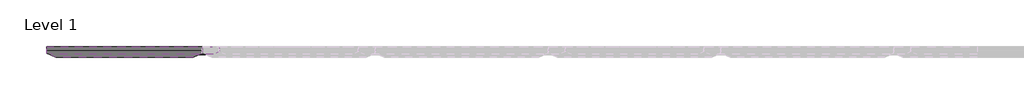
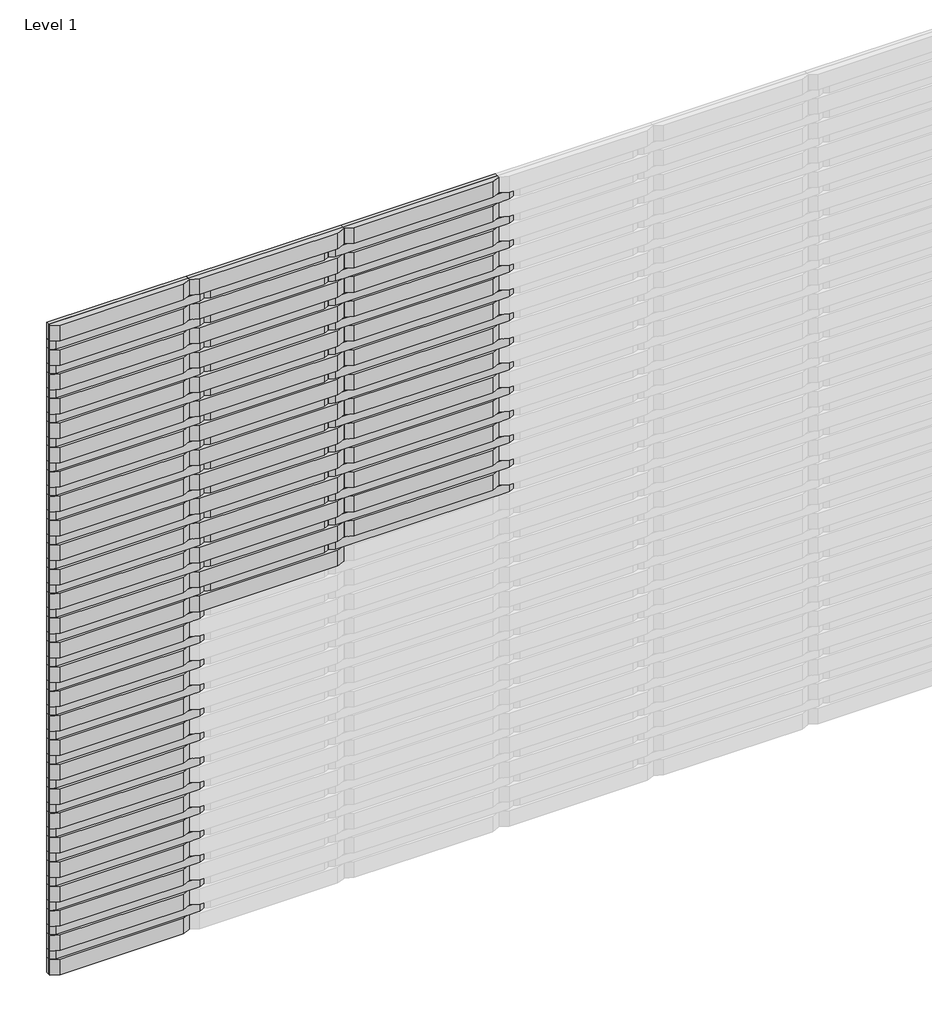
# One storey, part 1 of 3: 106 proxies.
"""IFC4 building model written with IfcOpenShell, lengths in millimetres."""

from ifc_helpers import new_model, si_unit, origin, place, context, project, spatial, transform, mapped, element, save
from components import specialty_equipment_40f1bc00, specialty_equipment_a95d78fa, specialty_equipment_5a5a9d1b, specialty_equipment_b25e9ab8, specialty_equipment_8bea2172

model = new_model("IFC4")

# Units and contexts
model_context = context("Model", 3, world=origin())
ifc_project = project(units=[si_unit("LENGTHUNIT", "METRE", prefix="MILLI")], contexts=[model_context])

# Site, building, storey
site = spatial("IfcSite", under=ifc_project)
building = spatial("IfcBuilding", under=site)
storey = spatial("IfcBuildingStorey", under=building, Name="Level 1", Elevation=0.0)

# Proxies
placement = place(None, origin())
specialty_equipment_shape = specialty_equipment_40f1bc00(model_context)
element("IfcBuildingElementProxy", 1, Name="Spinneybeck_ARO Plank 8 : A - 2’-9” x 3 1/2” x 1 1/4”", ObjectType="Spinneybeck_ARO Plank 8 : A - 2’-9” x 3 1/2” x 1 1/4”", at=placement, inside=storey, context=model_context, shape_type="MappedRepresentation", body=[
    mapped(specialty_equipment_shape, transform((1138.179612, 2593.3070483, 3755.55), x_axis=(1.0, 0.0, 0.0), y_axis=(0.0, 0.0, 1.0), z_axis=(0.0, -1.0, 0.0))),
])
element("IfcBuildingElementProxy", 2, Name="Spinneybeck_ARO Plank 8 : A - 2’-9” x 3 1/2” x 1 1/4”", ObjectType="Spinneybeck_ARO Plank 8 : A - 2’-9” x 3 1/2” x 1 1/4”", at=placement, inside=storey, context=model_context, shape_type="MappedRepresentation", body=[
    mapped(specialty_equipment_shape, transform((1976.379612, 2593.3070483, 3755.55), x_axis=(1.0, 0.0, 0.0), y_axis=(0.0, 0.0, 1.0), z_axis=(0.0, -1.0, 0.0))),
])
element("IfcBuildingElementProxy", 3, Name="Spinneybeck_ARO Plank 8 : A - 2’-9” x 3 1/2” x 1 1/4”", ObjectType="Spinneybeck_ARO Plank 8 : A - 2’-9” x 3 1/2” x 1 1/4”", at=placement, inside=storey, context=model_context, shape_type="MappedRepresentation", body=[
    mapped(specialty_equipment_shape, transform((1138.179612, 2593.3070483, 3615.85), x_axis=(1.0, 0.0, 0.0), y_axis=(0.0, 0.0, 1.0), z_axis=(0.0, -1.0, 0.0))),
])
element("IfcBuildingElementProxy", 4, Name="Spinneybeck_ARO Plank 8 : A - 2’-9” x 3 1/2” x 1 1/4”", ObjectType="Spinneybeck_ARO Plank 8 : A - 2’-9” x 3 1/2” x 1 1/4”", at=placement, inside=storey, context=model_context, shape_type="MappedRepresentation", body=[
    mapped(specialty_equipment_shape, transform((1976.379612, 2593.3070483, 3615.85), x_axis=(1.0, 0.0, 0.0), y_axis=(0.0, 0.0, 1.0), z_axis=(0.0, -1.0, 0.0))),
])
element("IfcBuildingElementProxy", 5, Name="Spinneybeck_ARO Plank 8 : A - 2’-9” x 3 1/2” x 1 1/4”", ObjectType="Spinneybeck_ARO Plank 8 : A - 2’-9” x 3 1/2” x 1 1/4”", at=placement, inside=storey, context=model_context, shape_type="MappedRepresentation", body=[
    mapped(specialty_equipment_shape, transform((1138.179612, 2593.3070483, 3476.15), x_axis=(1.0, 0.0, 0.0), y_axis=(0.0, 0.0, 1.0), z_axis=(0.0, -1.0, 0.0))),
])
element("IfcBuildingElementProxy", 6, Name="Spinneybeck_ARO Plank 8 : A - 2’-9” x 3 1/2” x 1 1/4”", ObjectType="Spinneybeck_ARO Plank 8 : A - 2’-9” x 3 1/2” x 1 1/4”", at=placement, inside=storey, context=model_context, shape_type="MappedRepresentation", body=[
    mapped(specialty_equipment_shape, transform((1976.379612, 2593.3070483, 3476.15), x_axis=(1.0, 0.0, 0.0), y_axis=(0.0, 0.0, 1.0), z_axis=(0.0, -1.0, 0.0))),
])
element("IfcBuildingElementProxy", 7, Name="Spinneybeck_ARO Plank 8 : A - 2’-9” x 3 1/2” x 1 1/4”", ObjectType="Spinneybeck_ARO Plank 8 : A - 2’-9” x 3 1/2” x 1 1/4”", at=placement, inside=storey, context=model_context, shape_type="MappedRepresentation", body=[
    mapped(specialty_equipment_shape, transform((1138.179612, 2593.3070483, 3336.45), x_axis=(1.0, 0.0, 0.0), y_axis=(0.0, 0.0, 1.0), z_axis=(0.0, -1.0, 0.0))),
])
element("IfcBuildingElementProxy", 8, Name="Spinneybeck_ARO Plank 8 : A - 2’-9” x 3 1/2” x 1 1/4”", ObjectType="Spinneybeck_ARO Plank 8 : A - 2’-9” x 3 1/2” x 1 1/4”", at=placement, inside=storey, context=model_context, shape_type="MappedRepresentation", body=[
    mapped(specialty_equipment_shape, transform((1976.379612, 2593.3070483, 3336.45), x_axis=(1.0, 0.0, 0.0), y_axis=(0.0, 0.0, 1.0), z_axis=(0.0, -1.0, 0.0))),
])
element("IfcBuildingElementProxy", 9, Name="Spinneybeck_ARO Plank 8 : A - 2’-9” x 3 1/2” x 1 1/4”", ObjectType="Spinneybeck_ARO Plank 8 : A - 2’-9” x 3 1/2” x 1 1/4”", at=placement, inside=storey, context=model_context, shape_type="MappedRepresentation", body=[
    mapped(specialty_equipment_shape, transform((1138.179612, 2593.3070483, 3196.75), x_axis=(1.0, 0.0, 0.0), y_axis=(0.0, 0.0, 1.0), z_axis=(0.0, -1.0, 0.0))),
])
element("IfcBuildingElementProxy", 10, Name="Spinneybeck_ARO Plank 8 : A - 2’-9” x 3 1/2” x 1 1/4”", ObjectType="Spinneybeck_ARO Plank 8 : A - 2’-9” x 3 1/2” x 1 1/4”", at=placement, inside=storey, context=model_context, shape_type="MappedRepresentation", body=[
    mapped(specialty_equipment_shape, transform((1976.379612, 2593.3070483, 3196.75), x_axis=(1.0, 0.0, 0.0), y_axis=(0.0, 0.0, 1.0), z_axis=(0.0, -1.0, 0.0))),
])
element("IfcBuildingElementProxy", 11, Name="Spinneybeck_ARO Plank 8 : A - 2’-9” x 3 1/2” x 1 1/4”", ObjectType="Spinneybeck_ARO Plank 8 : A - 2’-9” x 3 1/2” x 1 1/4”", at=placement, inside=storey, context=model_context, shape_type="MappedRepresentation", body=[
    mapped(specialty_equipment_shape, transform((1138.179612, 2593.3070483, 3057.05), x_axis=(1.0, 0.0, 0.0), y_axis=(0.0, 0.0, 1.0), z_axis=(0.0, -1.0, 0.0))),
])
element("IfcBuildingElementProxy", 12, Name="Spinneybeck_ARO Plank 8 : A - 2’-9” x 3 1/2” x 1 1/4”", ObjectType="Spinneybeck_ARO Plank 8 : A - 2’-9” x 3 1/2” x 1 1/4”", at=placement, inside=storey, context=model_context, shape_type="MappedRepresentation", body=[
    mapped(specialty_equipment_shape, transform((1976.379612, 2593.3070483, 3057.05), x_axis=(1.0, 0.0, 0.0), y_axis=(0.0, 0.0, 1.0), z_axis=(0.0, -1.0, 0.0))),
])
element("IfcBuildingElementProxy", 13, Name="Spinneybeck_ARO Plank 8 : A - 2’-9” x 3 1/2” x 1 1/4”", ObjectType="Spinneybeck_ARO Plank 8 : A - 2’-9” x 3 1/2” x 1 1/4”", at=placement, inside=storey, context=model_context, shape_type="MappedRepresentation", body=[
    mapped(specialty_equipment_shape, transform((1138.179612, 2593.3070483, 2917.35), x_axis=(1.0, 0.0, 0.0), y_axis=(0.0, 0.0, 1.0), z_axis=(0.0, -1.0, 0.0))),
])
element("IfcBuildingElementProxy", 14, Name="Spinneybeck_ARO Plank 8 : A - 2’-9” x 3 1/2” x 1 1/4”", ObjectType="Spinneybeck_ARO Plank 8 : A - 2’-9” x 3 1/2” x 1 1/4”", at=placement, inside=storey, context=model_context, shape_type="MappedRepresentation", body=[
    mapped(specialty_equipment_shape, transform((1976.379612, 2593.3070483, 2917.35), x_axis=(1.0, 0.0, 0.0), y_axis=(0.0, 0.0, 1.0), z_axis=(0.0, -1.0, 0.0))),
])
element("IfcBuildingElementProxy", 15, Name="Spinneybeck_ARO Plank 8 : A - 2’-9” x 3 1/2” x 1 1/4”", ObjectType="Spinneybeck_ARO Plank 8 : A - 2’-9” x 3 1/2” x 1 1/4”", at=placement, inside=storey, context=model_context, shape_type="MappedRepresentation", body=[
    mapped(specialty_equipment_shape, transform((1138.179612, 2593.3070483, 2777.65), x_axis=(1.0, 0.0, 0.0), y_axis=(0.0, 0.0, 1.0), z_axis=(0.0, -1.0, 0.0))),
])
element("IfcBuildingElementProxy", 16, Name="Spinneybeck_ARO Plank 8 : A - 2’-9” x 3 1/2” x 1 1/4”", ObjectType="Spinneybeck_ARO Plank 8 : A - 2’-9” x 3 1/2” x 1 1/4”", at=placement, inside=storey, context=model_context, shape_type="MappedRepresentation", body=[
    mapped(specialty_equipment_shape, transform((1976.379612, 2593.3070483, 2777.65), x_axis=(1.0, 0.0, 0.0), y_axis=(0.0, 0.0, 1.0), z_axis=(0.0, -1.0, 0.0))),
])
element("IfcBuildingElementProxy", 17, Name="Spinneybeck_ARO Plank 8 : A - 2’-9” x 3 1/2” x 1 1/4”", ObjectType="Spinneybeck_ARO Plank 8 : A - 2’-9” x 3 1/2” x 1 1/4”", at=placement, inside=storey, context=model_context, shape_type="MappedRepresentation", body=[
    mapped(specialty_equipment_shape, transform((1138.179612, 2593.3070483, 2637.95), x_axis=(1.0, 0.0, 0.0), y_axis=(0.0, 0.0, 1.0), z_axis=(0.0, -1.0, 0.0))),
])
element("IfcBuildingElementProxy", 18, Name="Spinneybeck_ARO Plank 8 : A - 2’-9” x 3 1/2” x 1 1/4”", ObjectType="Spinneybeck_ARO Plank 8 : A - 2’-9” x 3 1/2” x 1 1/4”", at=placement, inside=storey, context=model_context, shape_type="MappedRepresentation", body=[
    mapped(specialty_equipment_shape, transform((1976.379612, 2593.3070483, 2637.95), x_axis=(1.0, 0.0, 0.0), y_axis=(0.0, 0.0, 1.0), z_axis=(0.0, -1.0, 0.0))),
])
element("IfcBuildingElementProxy", 19, Name="Spinneybeck_ARO Plank 8 : A - 2’-9” x 3 1/2” x 1 1/4”", ObjectType="Spinneybeck_ARO Plank 8 : A - 2’-9” x 3 1/2” x 1 1/4”", at=placement, inside=storey, context=model_context, shape_type="MappedRepresentation", body=[
    mapped(specialty_equipment_shape, transform((1138.179612, 2593.3070483, 2498.25), x_axis=(1.0, 0.0, 0.0), y_axis=(0.0, 0.0, 1.0), z_axis=(0.0, -1.0, 0.0))),
])
element("IfcBuildingElementProxy", 20, Name="Spinneybeck_ARO Plank 8 : A - 2’-9” x 3 1/2” x 1 1/4”", ObjectType="Spinneybeck_ARO Plank 8 : A - 2’-9” x 3 1/2” x 1 1/4”", at=placement, inside=storey, context=model_context, shape_type="MappedRepresentation", body=[
    mapped(specialty_equipment_shape, transform((1976.379612, 2593.3070483, 2498.25), x_axis=(1.0, 0.0, 0.0), y_axis=(0.0, 0.0, 1.0), z_axis=(0.0, -1.0, 0.0))),
])
element("IfcBuildingElementProxy", 21, Name="Spinneybeck_ARO Plank 8 : A - 2’-9” x 3 1/2” x 1 1/4”", ObjectType="Spinneybeck_ARO Plank 8 : A - 2’-9” x 3 1/2” x 1 1/4”", at=placement, inside=storey, context=model_context, shape_type="MappedRepresentation", body=[
    mapped(specialty_equipment_shape, transform((1138.179612, 2593.3070483, 2358.55), x_axis=(1.0, 0.0, 0.0), y_axis=(0.0, 0.0, 1.0), z_axis=(0.0, -1.0, 0.0))),
])
element("IfcBuildingElementProxy", 22, Name="Spinneybeck_ARO Plank 8 : A - 2’-9” x 3 1/2” x 1 1/4”", ObjectType="Spinneybeck_ARO Plank 8 : A - 2’-9” x 3 1/2” x 1 1/4”", at=placement, inside=storey, context=model_context, shape_type="MappedRepresentation", body=[
    mapped(specialty_equipment_shape, transform((1976.379612, 2593.3070483, 2358.55), x_axis=(1.0, 0.0, 0.0), y_axis=(0.0, 0.0, 1.0), z_axis=(0.0, -1.0, 0.0))),
])
element("IfcBuildingElementProxy", 23, Name="Spinneybeck_ARO Plank 8 : A - 2’-9” x 3 1/2” x 1 1/4”", ObjectType="Spinneybeck_ARO Plank 8 : A - 2’-9” x 3 1/2” x 1 1/4”", at=placement, inside=storey, context=model_context, shape_type="MappedRepresentation", body=[
    mapped(specialty_equipment_shape, transform((1138.179612, 2593.3070483, 2218.85), x_axis=(1.0, 0.0, 0.0), y_axis=(0.0, 0.0, 1.0), z_axis=(0.0, -1.0, 0.0))),
])
element("IfcBuildingElementProxy", 24, Name="Spinneybeck_ARO Plank 8 : A - 2’-9” x 3 1/2” x 1 1/4”", ObjectType="Spinneybeck_ARO Plank 8 : A - 2’-9” x 3 1/2” x 1 1/4”", at=placement, inside=storey, context=model_context, shape_type="MappedRepresentation", body=[
    mapped(specialty_equipment_shape, transform((1976.379612, 2593.3070483, 2218.85), x_axis=(1.0, 0.0, 0.0), y_axis=(0.0, 0.0, 1.0), z_axis=(0.0, -1.0, 0.0))),
])
element("IfcBuildingElementProxy", 25, Name="Spinneybeck_ARO Plank 8 : A - 2’-9” x 3 1/2” x 1 1/4”", ObjectType="Spinneybeck_ARO Plank 8 : A - 2’-9” x 3 1/2” x 1 1/4”", at=placement, inside=storey, context=model_context, shape_type="MappedRepresentation", body=[
    mapped(specialty_equipment_shape, transform((1138.179612, 2593.3070483, 2079.15), x_axis=(1.0, 0.0, 0.0), y_axis=(0.0, 0.0, 1.0), z_axis=(0.0, -1.0, 0.0))),
])
element("IfcBuildingElementProxy", 26, Name="Spinneybeck_ARO Plank 8 : A - 2’-9” x 3 1/2” x 1 1/4”", ObjectType="Spinneybeck_ARO Plank 8 : A - 2’-9” x 3 1/2” x 1 1/4”", at=placement, inside=storey, context=model_context, shape_type="MappedRepresentation", body=[
    mapped(specialty_equipment_shape, transform((1976.379612, 2593.3070483, 2079.15), x_axis=(1.0, 0.0, 0.0), y_axis=(0.0, 0.0, 1.0), z_axis=(0.0, -1.0, 0.0))),
])
element("IfcBuildingElementProxy", 27, Name="Spinneybeck_ARO Plank 8 : A - 2’-9” x 3 1/2” x 1 1/4”", ObjectType="Spinneybeck_ARO Plank 8 : A - 2’-9” x 3 1/2” x 1 1/4”", at=placement, inside=storey, context=model_context, shape_type="MappedRepresentation", body=[
    mapped(specialty_equipment_shape, transform((1138.179612, 2593.3070483, 1939.45), x_axis=(1.0, 0.0, 0.0), y_axis=(0.0, 0.0, 1.0), z_axis=(0.0, -1.0, 0.0))),
])
specialty_equipment_2_shape = specialty_equipment_a95d78fa(model_context)
element("IfcBuildingElementProxy", 28, Name="Spinneybeck_ARO Plank 8 : C - 3’-3 1/2” x 2” x 3/4”", ObjectType="Spinneybeck_ARO Plank 8 : C - 3’-3 1/2” x 2” x 3/4”", at=placement, inside=storey, context=model_context, shape_type="MappedRepresentation", body=[
    mapped(specialty_equipment_2_shape, transform((1976.379612, 2593.3070483, 3685.7), x_axis=(1.0, 0.0, 0.0), y_axis=(0.0, 0.0, 1.0), z_axis=(0.0, -1.0, 0.0))),
])
element("IfcBuildingElementProxy", 29, Name="Spinneybeck_ARO Plank 8 : C - 3’-3 1/2” x 2” x 3/4”", ObjectType="Spinneybeck_ARO Plank 8 : C - 3’-3 1/2” x 2” x 3/4”", at=placement, inside=storey, context=model_context, shape_type="MappedRepresentation", body=[
    mapped(specialty_equipment_2_shape, transform((1976.379612, 2593.3070483, 3546.0), x_axis=(1.0, 0.0, 0.0), y_axis=(0.0, 0.0, 1.0), z_axis=(0.0, -1.0, 0.0))),
])
element("IfcBuildingElementProxy", 30, Name="Spinneybeck_ARO Plank 8 : C - 3’-3 1/2” x 2” x 3/4”", ObjectType="Spinneybeck_ARO Plank 8 : C - 3’-3 1/2” x 2” x 3/4”", at=placement, inside=storey, context=model_context, shape_type="MappedRepresentation", body=[
    mapped(specialty_equipment_2_shape, transform((1976.379612, 2593.3070483, 3406.3), x_axis=(1.0, 0.0, 0.0), y_axis=(0.0, 0.0, 1.0), z_axis=(0.0, -1.0, 0.0))),
])
element("IfcBuildingElementProxy", 31, Name="Spinneybeck_ARO Plank 8 : C - 3’-3 1/2” x 2” x 3/4”", ObjectType="Spinneybeck_ARO Plank 8 : C - 3’-3 1/2” x 2” x 3/4”", at=placement, inside=storey, context=model_context, shape_type="MappedRepresentation", body=[
    mapped(specialty_equipment_2_shape, transform((1976.379612, 2593.3070483, 3266.6), x_axis=(1.0, 0.0, 0.0), y_axis=(0.0, 0.0, 1.0), z_axis=(0.0, -1.0, 0.0))),
])
element("IfcBuildingElementProxy", 32, Name="Spinneybeck_ARO Plank 8 : C - 3’-3 1/2” x 2” x 3/4”", ObjectType="Spinneybeck_ARO Plank 8 : C - 3’-3 1/2” x 2” x 3/4”", at=placement, inside=storey, context=model_context, shape_type="MappedRepresentation", body=[
    mapped(specialty_equipment_2_shape, transform((1976.379612, 2593.3070483, 3126.9), x_axis=(1.0, 0.0, 0.0), y_axis=(0.0, 0.0, 1.0), z_axis=(0.0, -1.0, 0.0))),
])
element("IfcBuildingElementProxy", 33, Name="Spinneybeck_ARO Plank 8 : C - 3’-3 1/2” x 2” x 3/4”", ObjectType="Spinneybeck_ARO Plank 8 : C - 3’-3 1/2” x 2” x 3/4”", at=placement, inside=storey, context=model_context, shape_type="MappedRepresentation", body=[
    mapped(specialty_equipment_2_shape, transform((1976.379612, 2593.3070483, 2987.2), x_axis=(1.0, 0.0, 0.0), y_axis=(0.0, 0.0, 1.0), z_axis=(0.0, -1.0, 0.0))),
])
element("IfcBuildingElementProxy", 34, Name="Spinneybeck_ARO Plank 8 : C - 3’-3 1/2” x 2” x 3/4”", ObjectType="Spinneybeck_ARO Plank 8 : C - 3’-3 1/2” x 2” x 3/4”", at=placement, inside=storey, context=model_context, shape_type="MappedRepresentation", body=[
    mapped(specialty_equipment_2_shape, transform((1976.379612, 2593.3070483, 2847.5), x_axis=(1.0, 0.0, 0.0), y_axis=(0.0, 0.0, 1.0), z_axis=(0.0, -1.0, 0.0))),
])
element("IfcBuildingElementProxy", 35, Name="Spinneybeck_ARO Plank 8 : C - 3’-3 1/2” x 2” x 3/4”", ObjectType="Spinneybeck_ARO Plank 8 : C - 3’-3 1/2” x 2” x 3/4”", at=placement, inside=storey, context=model_context, shape_type="MappedRepresentation", body=[
    mapped(specialty_equipment_2_shape, transform((1976.379612, 2593.3070483, 2707.8), x_axis=(1.0, 0.0, 0.0), y_axis=(0.0, 0.0, 1.0), z_axis=(0.0, -1.0, 0.0))),
])
element("IfcBuildingElementProxy", 36, Name="Spinneybeck_ARO Plank 8 : C - 3’-3 1/2” x 2” x 3/4”", ObjectType="Spinneybeck_ARO Plank 8 : C - 3’-3 1/2” x 2” x 3/4”", at=placement, inside=storey, context=model_context, shape_type="MappedRepresentation", body=[
    mapped(specialty_equipment_2_shape, transform((1976.379612, 2593.3070483, 2568.1), x_axis=(1.0, 0.0, 0.0), y_axis=(0.0, 0.0, 1.0), z_axis=(0.0, -1.0, 0.0))),
])
element("IfcBuildingElementProxy", 37, Name="Spinneybeck_ARO Plank 8 : C - 3’-3 1/2” x 2” x 3/4”", ObjectType="Spinneybeck_ARO Plank 8 : C - 3’-3 1/2” x 2” x 3/4”", at=placement, inside=storey, context=model_context, shape_type="MappedRepresentation", body=[
    mapped(specialty_equipment_2_shape, transform((1976.379612, 2593.3070483, 2428.4), x_axis=(1.0, 0.0, 0.0), y_axis=(0.0, 0.0, 1.0), z_axis=(0.0, -1.0, 0.0))),
])
element("IfcBuildingElementProxy", 38, Name="Spinneybeck_ARO Plank 8 : C - 3’-3 1/2” x 2” x 3/4”", ObjectType="Spinneybeck_ARO Plank 8 : C - 3’-3 1/2” x 2” x 3/4”", at=placement, inside=storey, context=model_context, shape_type="MappedRepresentation", body=[
    mapped(specialty_equipment_2_shape, transform((1976.379612, 2593.3070483, 2288.7), x_axis=(1.0, 0.0, 0.0), y_axis=(0.0, 0.0, 1.0), z_axis=(0.0, -1.0, 0.0))),
])
element("IfcBuildingElementProxy", 39, Name="Spinneybeck_ARO Plank 8 : C - 3’-3 1/2” x 2” x 3/4”", ObjectType="Spinneybeck_ARO Plank 8 : C - 3’-3 1/2” x 2” x 3/4”", at=placement, inside=storey, context=model_context, shape_type="MappedRepresentation", body=[
    mapped(specialty_equipment_2_shape, transform((1976.379612, 2593.3070483, 2149.0), x_axis=(1.0, 0.0, 0.0), y_axis=(0.0, 0.0, 1.0), z_axis=(0.0, -1.0, 0.0))),
])
element("IfcBuildingElementProxy", 40, Name="Spinneybeck_ARO Plank 8 : C - 3’-3 1/2” x 2” x 3/4”", ObjectType="Spinneybeck_ARO Plank 8 : C - 3’-3 1/2” x 2” x 3/4”", at=placement, inside=storey, context=model_context, shape_type="MappedRepresentation", body=[
    mapped(specialty_equipment_2_shape, transform((1976.379612, 2593.3070483, 2009.3), x_axis=(1.0, 0.0, 0.0), y_axis=(0.0, 0.0, 1.0), z_axis=(0.0, -1.0, 0.0))),
])
specialty_equipment_3_shape = specialty_equipment_5a5a9d1b(model_context)
element("IfcBuildingElementProxy", 41, Name="Spinneybeck_ARO Plank 8 : D - 2’-2 1/2” x 2” x 3/4”", ObjectType="Spinneybeck_ARO Plank 8 : D - 2’-2 1/2” x 2” x 3/4”", at=placement, inside=storey, context=model_context, shape_type="MappedRepresentation", body=[
    mapped(specialty_equipment_3_shape, transform((1138.179612, 2593.3070483, 3685.7), x_axis=(1.0, 0.0, 0.0), y_axis=(0.0, 0.0, 1.0), z_axis=(0.0, -1.0, 0.0))),
])
element("IfcBuildingElementProxy", 42, Name="Spinneybeck_ARO Plank 8 : D - 2’-2 1/2” x 2” x 3/4”", ObjectType="Spinneybeck_ARO Plank 8 : D - 2’-2 1/2” x 2” x 3/4”", at=placement, inside=storey, context=model_context, shape_type="MappedRepresentation", body=[
    mapped(specialty_equipment_3_shape, transform((1138.179612, 2593.3070483, 3546.0), x_axis=(1.0, 0.0, 0.0), y_axis=(0.0, 0.0, 1.0), z_axis=(0.0, -1.0, 0.0))),
])
element("IfcBuildingElementProxy", 43, Name="Spinneybeck_ARO Plank 8 : D - 2’-2 1/2” x 2” x 3/4”", ObjectType="Spinneybeck_ARO Plank 8 : D - 2’-2 1/2” x 2” x 3/4”", at=placement, inside=storey, context=model_context, shape_type="MappedRepresentation", body=[
    mapped(specialty_equipment_3_shape, transform((1138.179612, 2593.3070483, 3406.3), x_axis=(1.0, 0.0, 0.0), y_axis=(0.0, 0.0, 1.0), z_axis=(0.0, -1.0, 0.0))),
])
element("IfcBuildingElementProxy", 44, Name="Spinneybeck_ARO Plank 8 : D - 2’-2 1/2” x 2” x 3/4”", ObjectType="Spinneybeck_ARO Plank 8 : D - 2’-2 1/2” x 2” x 3/4”", at=placement, inside=storey, context=model_context, shape_type="MappedRepresentation", body=[
    mapped(specialty_equipment_3_shape, transform((1138.179612, 2593.3070483, 3266.6), x_axis=(1.0, 0.0, 0.0), y_axis=(0.0, 0.0, 1.0), z_axis=(0.0, -1.0, 0.0))),
])
element("IfcBuildingElementProxy", 45, Name="Spinneybeck_ARO Plank 8 : D - 2’-2 1/2” x 2” x 3/4”", ObjectType="Spinneybeck_ARO Plank 8 : D - 2’-2 1/2” x 2” x 3/4”", at=placement, inside=storey, context=model_context, shape_type="MappedRepresentation", body=[
    mapped(specialty_equipment_3_shape, transform((1138.179612, 2593.3070483, 3126.9), x_axis=(1.0, 0.0, 0.0), y_axis=(0.0, 0.0, 1.0), z_axis=(0.0, -1.0, 0.0))),
])
element("IfcBuildingElementProxy", 46, Name="Spinneybeck_ARO Plank 8 : D - 2’-2 1/2” x 2” x 3/4”", ObjectType="Spinneybeck_ARO Plank 8 : D - 2’-2 1/2” x 2” x 3/4”", at=placement, inside=storey, context=model_context, shape_type="MappedRepresentation", body=[
    mapped(specialty_equipment_3_shape, transform((1138.179612, 2593.3070483, 2987.2), x_axis=(1.0, 0.0, 0.0), y_axis=(0.0, 0.0, 1.0), z_axis=(0.0, -1.0, 0.0))),
])
element("IfcBuildingElementProxy", 47, Name="Spinneybeck_ARO Plank 8 : D - 2’-2 1/2” x 2” x 3/4”", ObjectType="Spinneybeck_ARO Plank 8 : D - 2’-2 1/2” x 2” x 3/4”", at=placement, inside=storey, context=model_context, shape_type="MappedRepresentation", body=[
    mapped(specialty_equipment_3_shape, transform((1138.179612, 2593.3070483, 2847.5), x_axis=(1.0, 0.0, 0.0), y_axis=(0.0, 0.0, 1.0), z_axis=(0.0, -1.0, 0.0))),
])
element("IfcBuildingElementProxy", 48, Name="Spinneybeck_ARO Plank 8 : D - 2’-2 1/2” x 2” x 3/4”", ObjectType="Spinneybeck_ARO Plank 8 : D - 2’-2 1/2” x 2” x 3/4”", at=placement, inside=storey, context=model_context, shape_type="MappedRepresentation", body=[
    mapped(specialty_equipment_3_shape, transform((1138.179612, 2593.3070483, 2707.8), x_axis=(1.0, 0.0, 0.0), y_axis=(0.0, 0.0, 1.0), z_axis=(0.0, -1.0, 0.0))),
])
element("IfcBuildingElementProxy", 49, Name="Spinneybeck_ARO Plank 8 : D - 2’-2 1/2” x 2” x 3/4”", ObjectType="Spinneybeck_ARO Plank 8 : D - 2’-2 1/2” x 2” x 3/4”", at=placement, inside=storey, context=model_context, shape_type="MappedRepresentation", body=[
    mapped(specialty_equipment_3_shape, transform((1138.179612, 2593.3070483, 2568.1), x_axis=(1.0, 0.0, 0.0), y_axis=(0.0, 0.0, 1.0), z_axis=(0.0, -1.0, 0.0))),
])
element("IfcBuildingElementProxy", 50, Name="Spinneybeck_ARO Plank 8 : D - 2’-2 1/2” x 2” x 3/4”", ObjectType="Spinneybeck_ARO Plank 8 : D - 2’-2 1/2” x 2” x 3/4”", at=placement, inside=storey, context=model_context, shape_type="MappedRepresentation", body=[
    mapped(specialty_equipment_3_shape, transform((1138.179612, 2593.3070483, 2428.4), x_axis=(1.0, 0.0, 0.0), y_axis=(0.0, 0.0, 1.0), z_axis=(0.0, -1.0, 0.0))),
])
element("IfcBuildingElementProxy", 51, Name="Spinneybeck_ARO Plank 8 : D - 2’-2 1/2” x 2” x 3/4”", ObjectType="Spinneybeck_ARO Plank 8 : D - 2’-2 1/2” x 2” x 3/4”", at=placement, inside=storey, context=model_context, shape_type="MappedRepresentation", body=[
    mapped(specialty_equipment_3_shape, transform((1138.179612, 2593.3070483, 2288.7), x_axis=(1.0, 0.0, 0.0), y_axis=(0.0, 0.0, 1.0), z_axis=(0.0, -1.0, 0.0))),
])
element("IfcBuildingElementProxy", 52, Name="Spinneybeck_ARO Plank 8 : D - 2’-2 1/2” x 2” x 3/4”", ObjectType="Spinneybeck_ARO Plank 8 : D - 2’-2 1/2” x 2” x 3/4”", at=placement, inside=storey, context=model_context, shape_type="MappedRepresentation", body=[
    mapped(specialty_equipment_3_shape, transform((1138.179612, 2593.3070483, 2149.0), x_axis=(1.0, 0.0, 0.0), y_axis=(0.0, 0.0, 1.0), z_axis=(0.0, -1.0, 0.0))),
])
element("IfcBuildingElementProxy", 53, Name="Spinneybeck_ARO Plank 8 : D - 2’-2 1/2” x 2” x 3/4”", ObjectType="Spinneybeck_ARO Plank 8 : D - 2’-2 1/2” x 2” x 3/4”", at=placement, inside=storey, context=model_context, shape_type="MappedRepresentation", body=[
    mapped(specialty_equipment_3_shape, transform((1138.179612, 2593.3070483, 2009.3), x_axis=(1.0, 0.0, 0.0), y_axis=(0.0, 0.0, 1.0), z_axis=(0.0, -1.0, 0.0))),
])
specialty_equipment_4_shape = specialty_equipment_b25e9ab8(model_context)
element("IfcBuildingElementProxy", 54, Name="Spinneybeck_ARO Plank 8 : A - 2’-9” x 3 1/2” x 1 1/4”", ObjectType="Spinneybeck_ARO Plank 8 : A - 2’-9” x 3 1/2” x 1 1/4”", at=placement, inside=storey, context=model_context, shape_type="MappedRepresentation", body=[
    mapped(specialty_equipment_4_shape, transform((341.254612, 2593.3070483, 3755.55), x_axis=(1.0, 0.0, 0.0), y_axis=(0.0, 0.0, 1.0), z_axis=(0.0, -1.0, 0.0))),
])
element("IfcBuildingElementProxy", 55, Name="Spinneybeck_ARO Plank 8 : A - 2’-9” x 3 1/2” x 1 1/4”", ObjectType="Spinneybeck_ARO Plank 8 : A - 2’-9” x 3 1/2” x 1 1/4”", at=placement, inside=storey, context=model_context, shape_type="MappedRepresentation", body=[
    mapped(specialty_equipment_4_shape, transform((341.254612, 2593.3070483, 3615.85), x_axis=(1.0, 0.0, 0.0), y_axis=(0.0, 0.0, 1.0), z_axis=(0.0, -1.0, 0.0))),
])
element("IfcBuildingElementProxy", 56, Name="Spinneybeck_ARO Plank 8 : A - 2’-9” x 3 1/2” x 1 1/4”", ObjectType="Spinneybeck_ARO Plank 8 : A - 2’-9” x 3 1/2” x 1 1/4”", at=placement, inside=storey, context=model_context, shape_type="MappedRepresentation", body=[
    mapped(specialty_equipment_4_shape, transform((341.254612, 2593.3070483, 3476.15), x_axis=(1.0, 0.0, 0.0), y_axis=(0.0, 0.0, 1.0), z_axis=(0.0, -1.0, 0.0))),
])
element("IfcBuildingElementProxy", 57, Name="Spinneybeck_ARO Plank 8 : A - 2’-9” x 3 1/2” x 1 1/4”", ObjectType="Spinneybeck_ARO Plank 8 : A - 2’-9” x 3 1/2” x 1 1/4”", at=placement, inside=storey, context=model_context, shape_type="MappedRepresentation", body=[
    mapped(specialty_equipment_4_shape, transform((341.254612, 2593.3070483, 3336.45), x_axis=(1.0, 0.0, 0.0), y_axis=(0.0, 0.0, 1.0), z_axis=(0.0, -1.0, 0.0))),
])
element("IfcBuildingElementProxy", 58, Name="Spinneybeck_ARO Plank 8 : A - 2’-9” x 3 1/2” x 1 1/4”", ObjectType="Spinneybeck_ARO Plank 8 : A - 2’-9” x 3 1/2” x 1 1/4”", at=placement, inside=storey, context=model_context, shape_type="MappedRepresentation", body=[
    mapped(specialty_equipment_4_shape, transform((341.254612, 2593.3070483, 3196.75), x_axis=(1.0, 0.0, 0.0), y_axis=(0.0, 0.0, 1.0), z_axis=(0.0, -1.0, 0.0))),
])
element("IfcBuildingElementProxy", 59, Name="Spinneybeck_ARO Plank 8 : A - 2’-9” x 3 1/2” x 1 1/4”", ObjectType="Spinneybeck_ARO Plank 8 : A - 2’-9” x 3 1/2” x 1 1/4”", at=placement, inside=storey, context=model_context, shape_type="MappedRepresentation", body=[
    mapped(specialty_equipment_4_shape, transform((341.254612, 2593.3070483, 3057.05), x_axis=(1.0, 0.0, 0.0), y_axis=(0.0, 0.0, 1.0), z_axis=(0.0, -1.0, 0.0))),
])
element("IfcBuildingElementProxy", 60, Name="Spinneybeck_ARO Plank 8 : A - 2’-9” x 3 1/2” x 1 1/4”", ObjectType="Spinneybeck_ARO Plank 8 : A - 2’-9” x 3 1/2” x 1 1/4”", at=placement, inside=storey, context=model_context, shape_type="MappedRepresentation", body=[
    mapped(specialty_equipment_4_shape, transform((341.254612, 2593.3070483, 2917.35), x_axis=(1.0, 0.0, 0.0), y_axis=(0.0, 0.0, 1.0), z_axis=(0.0, -1.0, 0.0))),
])
element("IfcBuildingElementProxy", 61, Name="Spinneybeck_ARO Plank 8 : A - 2’-9” x 3 1/2” x 1 1/4”", ObjectType="Spinneybeck_ARO Plank 8 : A - 2’-9” x 3 1/2” x 1 1/4”", at=placement, inside=storey, context=model_context, shape_type="MappedRepresentation", body=[
    mapped(specialty_equipment_4_shape, transform((341.254612, 2593.3070483, 2777.65), x_axis=(1.0, 0.0, 0.0), y_axis=(0.0, 0.0, 1.0), z_axis=(0.0, -1.0, 0.0))),
])
element("IfcBuildingElementProxy", 62, Name="Spinneybeck_ARO Plank 8 : A - 2’-9” x 3 1/2” x 1 1/4”", ObjectType="Spinneybeck_ARO Plank 8 : A - 2’-9” x 3 1/2” x 1 1/4”", at=placement, inside=storey, context=model_context, shape_type="MappedRepresentation", body=[
    mapped(specialty_equipment_4_shape, transform((341.254612, 2593.3070483, 2637.95), x_axis=(1.0, 0.0, 0.0), y_axis=(0.0, 0.0, 1.0), z_axis=(0.0, -1.0, 0.0))),
])
element("IfcBuildingElementProxy", 63, Name="Spinneybeck_ARO Plank 8 : A - 2’-9” x 3 1/2” x 1 1/4”", ObjectType="Spinneybeck_ARO Plank 8 : A - 2’-9” x 3 1/2” x 1 1/4”", at=placement, inside=storey, context=model_context, shape_type="MappedRepresentation", body=[
    mapped(specialty_equipment_4_shape, transform((341.254612, 2593.3070483, 2498.25), x_axis=(1.0, 0.0, 0.0), y_axis=(0.0, 0.0, 1.0), z_axis=(0.0, -1.0, 0.0))),
])
element("IfcBuildingElementProxy", 64, Name="Spinneybeck_ARO Plank 8 : A - 2’-9” x 3 1/2” x 1 1/4”", ObjectType="Spinneybeck_ARO Plank 8 : A - 2’-9” x 3 1/2” x 1 1/4”", at=placement, inside=storey, context=model_context, shape_type="MappedRepresentation", body=[
    mapped(specialty_equipment_4_shape, transform((341.254612, 2593.3070483, 2358.55), x_axis=(1.0, 0.0, 0.0), y_axis=(0.0, 0.0, 1.0), z_axis=(0.0, -1.0, 0.0))),
])
element("IfcBuildingElementProxy", 65, Name="Spinneybeck_ARO Plank 8 : A - 2’-9” x 3 1/2” x 1 1/4”", ObjectType="Spinneybeck_ARO Plank 8 : A - 2’-9” x 3 1/2” x 1 1/4”", at=placement, inside=storey, context=model_context, shape_type="MappedRepresentation", body=[
    mapped(specialty_equipment_4_shape, transform((341.254612, 2593.3070483, 2218.85), x_axis=(1.0, 0.0, 0.0), y_axis=(0.0, 0.0, 1.0), z_axis=(0.0, -1.0, 0.0))),
])
element("IfcBuildingElementProxy", 66, Name="Spinneybeck_ARO Plank 8 : A - 2’-9” x 3 1/2” x 1 1/4”", ObjectType="Spinneybeck_ARO Plank 8 : A - 2’-9” x 3 1/2” x 1 1/4”", at=placement, inside=storey, context=model_context, shape_type="MappedRepresentation", body=[
    mapped(specialty_equipment_4_shape, transform((341.254612, 2593.3070483, 2079.15), x_axis=(1.0, 0.0, 0.0), y_axis=(0.0, 0.0, 1.0), z_axis=(0.0, -1.0, 0.0))),
])
element("IfcBuildingElementProxy", 67, Name="Spinneybeck_ARO Plank 8 : A - 2’-9” x 3 1/2” x 1 1/4”", ObjectType="Spinneybeck_ARO Plank 8 : A - 2’-9” x 3 1/2” x 1 1/4”", at=placement, inside=storey, context=model_context, shape_type="MappedRepresentation", body=[
    mapped(specialty_equipment_4_shape, transform((341.254612, 2593.3070483, 1939.45), x_axis=(1.0, 0.0, 0.0), y_axis=(0.0, 0.0, 1.0), z_axis=(0.0, -1.0, 0.0))),
])
element("IfcBuildingElementProxy", 68, Name="Spinneybeck_ARO Plank 8 : A - 2’-9” x 3 1/2” x 1 1/4”", ObjectType="Spinneybeck_ARO Plank 8 : A - 2’-9” x 3 1/2” x 1 1/4”", at=placement, inside=storey, context=model_context, shape_type="MappedRepresentation", body=[
    mapped(specialty_equipment_4_shape, transform((341.254612, 2593.3070483, 1799.75), x_axis=(1.0, 0.0, 0.0), y_axis=(0.0, 0.0, 1.0), z_axis=(0.0, -1.0, 0.0))),
])
element("IfcBuildingElementProxy", 69, Name="Spinneybeck_ARO Plank 8 : A - 2’-9” x 3 1/2” x 1 1/4”", ObjectType="Spinneybeck_ARO Plank 8 : A - 2’-9” x 3 1/2” x 1 1/4”", at=placement, inside=storey, context=model_context, shape_type="MappedRepresentation", body=[
    mapped(specialty_equipment_4_shape, transform((341.254612, 2593.3070483, 1660.05), x_axis=(1.0, 0.0, 0.0), y_axis=(0.0, 0.0, 1.0), z_axis=(0.0, -1.0, 0.0))),
])
element("IfcBuildingElementProxy", 70, Name="Spinneybeck_ARO Plank 8 : A - 2’-9” x 3 1/2” x 1 1/4”", ObjectType="Spinneybeck_ARO Plank 8 : A - 2’-9” x 3 1/2” x 1 1/4”", at=placement, inside=storey, context=model_context, shape_type="MappedRepresentation", body=[
    mapped(specialty_equipment_4_shape, transform((341.254612, 2593.3070483, 1520.35), x_axis=(1.0, 0.0, 0.0), y_axis=(0.0, 0.0, 1.0), z_axis=(0.0, -1.0, 0.0))),
])
element("IfcBuildingElementProxy", 71, Name="Spinneybeck_ARO Plank 8 : A - 2’-9” x 3 1/2” x 1 1/4”", ObjectType="Spinneybeck_ARO Plank 8 : A - 2’-9” x 3 1/2” x 1 1/4”", at=placement, inside=storey, context=model_context, shape_type="MappedRepresentation", body=[
    mapped(specialty_equipment_4_shape, transform((341.254612, 2593.3070483, 1380.65), x_axis=(1.0, 0.0, 0.0), y_axis=(0.0, 0.0, 1.0), z_axis=(0.0, -1.0, 0.0))),
])
element("IfcBuildingElementProxy", 72, Name="Spinneybeck_ARO Plank 8 : A - 2’-9” x 3 1/2” x 1 1/4”", ObjectType="Spinneybeck_ARO Plank 8 : A - 2’-9” x 3 1/2” x 1 1/4”", at=placement, inside=storey, context=model_context, shape_type="MappedRepresentation", body=[
    mapped(specialty_equipment_4_shape, transform((341.254612, 2593.3070483, 1240.95), x_axis=(1.0, 0.0, 0.0), y_axis=(0.0, 0.0, 1.0), z_axis=(0.0, -1.0, 0.0))),
])
element("IfcBuildingElementProxy", 73, Name="Spinneybeck_ARO Plank 8 : A - 2’-9” x 3 1/2” x 1 1/4”", ObjectType="Spinneybeck_ARO Plank 8 : A - 2’-9” x 3 1/2” x 1 1/4”", at=placement, inside=storey, context=model_context, shape_type="MappedRepresentation", body=[
    mapped(specialty_equipment_4_shape, transform((341.254612, 2593.3070483, 1101.25), x_axis=(1.0, 0.0, 0.0), y_axis=(0.0, 0.0, 1.0), z_axis=(0.0, -1.0, 0.0))),
])
element("IfcBuildingElementProxy", 74, Name="Spinneybeck_ARO Plank 8 : A - 2’-9” x 3 1/2” x 1 1/4”", ObjectType="Spinneybeck_ARO Plank 8 : A - 2’-9” x 3 1/2” x 1 1/4”", at=placement, inside=storey, context=model_context, shape_type="MappedRepresentation", body=[
    mapped(specialty_equipment_4_shape, transform((341.254612, 2593.3070483, 961.55), x_axis=(1.0, 0.0, 0.0), y_axis=(0.0, 0.0, 1.0), z_axis=(0.0, -1.0, 0.0))),
])
element("IfcBuildingElementProxy", 75, Name="Spinneybeck_ARO Plank 8 : A - 2’-9” x 3 1/2” x 1 1/4”", ObjectType="Spinneybeck_ARO Plank 8 : A - 2’-9” x 3 1/2” x 1 1/4”", at=placement, inside=storey, context=model_context, shape_type="MappedRepresentation", body=[
    mapped(specialty_equipment_4_shape, transform((341.254612, 2593.3070483, 821.85), x_axis=(1.0, 0.0, 0.0), y_axis=(0.0, 0.0, 1.0), z_axis=(0.0, -1.0, 0.0))),
])
element("IfcBuildingElementProxy", 76, Name="Spinneybeck_ARO Plank 8 : A - 2’-9” x 3 1/2” x 1 1/4”", ObjectType="Spinneybeck_ARO Plank 8 : A - 2’-9” x 3 1/2” x 1 1/4”", at=placement, inside=storey, context=model_context, shape_type="MappedRepresentation", body=[
    mapped(specialty_equipment_4_shape, transform((341.254612, 2593.3070483, 682.15), x_axis=(1.0, 0.0, 0.0), y_axis=(0.0, 0.0, 1.0), z_axis=(0.0, -1.0, 0.0))),
])
element("IfcBuildingElementProxy", 77, Name="Spinneybeck_ARO Plank 8 : A - 2’-9” x 3 1/2” x 1 1/4”", ObjectType="Spinneybeck_ARO Plank 8 : A - 2’-9” x 3 1/2” x 1 1/4”", at=placement, inside=storey, context=model_context, shape_type="MappedRepresentation", body=[
    mapped(specialty_equipment_4_shape, transform((341.254612, 2593.3070483, 542.45), x_axis=(1.0, 0.0, 0.0), y_axis=(0.0, 0.0, 1.0), z_axis=(0.0, -1.0, 0.0))),
])
element("IfcBuildingElementProxy", 78, Name="Spinneybeck_ARO Plank 8 : A - 2’-9” x 3 1/2” x 1 1/4”", ObjectType="Spinneybeck_ARO Plank 8 : A - 2’-9” x 3 1/2” x 1 1/4”", at=placement, inside=storey, context=model_context, shape_type="MappedRepresentation", body=[
    mapped(specialty_equipment_4_shape, transform((341.254612, 2593.3070483, 402.75), x_axis=(1.0, 0.0, 0.0), y_axis=(0.0, 0.0, 1.0), z_axis=(0.0, -1.0, 0.0))),
])
element("IfcBuildingElementProxy", 79, Name="Spinneybeck_ARO Plank 8 : A - 2’-9” x 3 1/2” x 1 1/4”", ObjectType="Spinneybeck_ARO Plank 8 : A - 2’-9” x 3 1/2” x 1 1/4”", at=placement, inside=storey, context=model_context, shape_type="MappedRepresentation", body=[
    mapped(specialty_equipment_4_shape, transform((341.254612, 2593.3070483, 263.05), x_axis=(1.0, 0.0, 0.0), y_axis=(0.0, 0.0, 1.0), z_axis=(0.0, -1.0, 0.0))),
])
element("IfcBuildingElementProxy", 80, Name="Spinneybeck_ARO Plank 8 : A - 2’-9” x 3 1/2” x 1 1/4”", ObjectType="Spinneybeck_ARO Plank 8 : A - 2’-9” x 3 1/2” x 1 1/4”", at=placement, inside=storey, context=model_context, shape_type="MappedRepresentation", body=[
    mapped(specialty_equipment_4_shape, transform((341.254612, 2593.3070483, 123.35), x_axis=(1.0, 0.0, 0.0), y_axis=(0.0, 0.0, 1.0), z_axis=(0.0, -1.0, 0.0))),
])
specialty_equipment_5_shape = specialty_equipment_8bea2172(model_context)
element("IfcBuildingElementProxy", 81, Name="Spinneybeck_ARO Plank 8 : C - 3’-3 1/2” x 2” x 3/4”", ObjectType="Spinneybeck_ARO Plank 8 : C - 3’-3 1/2” x 2” x 3/4”", at=placement, inside=storey, context=model_context, shape_type="MappedRepresentation", body=[
    mapped(specialty_equipment_5_shape, transform((382.529612, 2593.3070483, 3685.7), x_axis=(1.0, 0.0, 0.0), y_axis=(0.0, 0.0, 1.0), z_axis=(0.0, -1.0, 0.0))),
])
element("IfcBuildingElementProxy", 82, Name="Spinneybeck_ARO Plank 8 : C - 3’-3 1/2” x 2” x 3/4”", ObjectType="Spinneybeck_ARO Plank 8 : C - 3’-3 1/2” x 2” x 3/4”", at=placement, inside=storey, context=model_context, shape_type="MappedRepresentation", body=[
    mapped(specialty_equipment_5_shape, transform((382.529612, 2593.3070483, 3546.0), x_axis=(1.0, 0.0, 0.0), y_axis=(0.0, 0.0, 1.0), z_axis=(0.0, -1.0, 0.0))),
])
element("IfcBuildingElementProxy", 83, Name="Spinneybeck_ARO Plank 8 : C - 3’-3 1/2” x 2” x 3/4”", ObjectType="Spinneybeck_ARO Plank 8 : C - 3’-3 1/2” x 2” x 3/4”", at=placement, inside=storey, context=model_context, shape_type="MappedRepresentation", body=[
    mapped(specialty_equipment_5_shape, transform((382.529612, 2593.3070483, 3406.3), x_axis=(1.0, 0.0, 0.0), y_axis=(0.0, 0.0, 1.0), z_axis=(0.0, -1.0, 0.0))),
])
element("IfcBuildingElementProxy", 84, Name="Spinneybeck_ARO Plank 8 : C - 3’-3 1/2” x 2” x 3/4”", ObjectType="Spinneybeck_ARO Plank 8 : C - 3’-3 1/2” x 2” x 3/4”", at=placement, inside=storey, context=model_context, shape_type="MappedRepresentation", body=[
    mapped(specialty_equipment_5_shape, transform((382.529612, 2593.3070483, 3266.6), x_axis=(1.0, 0.0, 0.0), y_axis=(0.0, 0.0, 1.0), z_axis=(0.0, -1.0, 0.0))),
])
element("IfcBuildingElementProxy", 85, Name="Spinneybeck_ARO Plank 8 : C - 3’-3 1/2” x 2” x 3/4”", ObjectType="Spinneybeck_ARO Plank 8 : C - 3’-3 1/2” x 2” x 3/4”", at=placement, inside=storey, context=model_context, shape_type="MappedRepresentation", body=[
    mapped(specialty_equipment_5_shape, transform((382.529612, 2593.3070483, 3126.9), x_axis=(1.0, 0.0, 0.0), y_axis=(0.0, 0.0, 1.0), z_axis=(0.0, -1.0, 0.0))),
])
element("IfcBuildingElementProxy", 86, Name="Spinneybeck_ARO Plank 8 : C - 3’-3 1/2” x 2” x 3/4”", ObjectType="Spinneybeck_ARO Plank 8 : C - 3’-3 1/2” x 2” x 3/4”", at=placement, inside=storey, context=model_context, shape_type="MappedRepresentation", body=[
    mapped(specialty_equipment_5_shape, transform((382.529612, 2593.3070483, 2987.2), x_axis=(1.0, 0.0, 0.0), y_axis=(0.0, 0.0, 1.0), z_axis=(0.0, -1.0, 0.0))),
])
element("IfcBuildingElementProxy", 87, Name="Spinneybeck_ARO Plank 8 : C - 3’-3 1/2” x 2” x 3/4”", ObjectType="Spinneybeck_ARO Plank 8 : C - 3’-3 1/2” x 2” x 3/4”", at=placement, inside=storey, context=model_context, shape_type="MappedRepresentation", body=[
    mapped(specialty_equipment_5_shape, transform((382.529612, 2593.3070483, 2847.5), x_axis=(1.0, 0.0, 0.0), y_axis=(0.0, 0.0, 1.0), z_axis=(0.0, -1.0, 0.0))),
])
element("IfcBuildingElementProxy", 88, Name="Spinneybeck_ARO Plank 8 : C - 3’-3 1/2” x 2” x 3/4”", ObjectType="Spinneybeck_ARO Plank 8 : C - 3’-3 1/2” x 2” x 3/4”", at=placement, inside=storey, context=model_context, shape_type="MappedRepresentation", body=[
    mapped(specialty_equipment_5_shape, transform((382.529612, 2593.3070483, 2707.8), x_axis=(1.0, 0.0, 0.0), y_axis=(0.0, 0.0, 1.0), z_axis=(0.0, -1.0, 0.0))),
])
element("IfcBuildingElementProxy", 89, Name="Spinneybeck_ARO Plank 8 : C - 3’-3 1/2” x 2” x 3/4”", ObjectType="Spinneybeck_ARO Plank 8 : C - 3’-3 1/2” x 2” x 3/4”", at=placement, inside=storey, context=model_context, shape_type="MappedRepresentation", body=[
    mapped(specialty_equipment_5_shape, transform((382.529612, 2593.3070483, 2568.1), x_axis=(1.0, 0.0, 0.0), y_axis=(0.0, 0.0, 1.0), z_axis=(0.0, -1.0, 0.0))),
])
element("IfcBuildingElementProxy", 90, Name="Spinneybeck_ARO Plank 8 : C - 3’-3 1/2” x 2” x 3/4”", ObjectType="Spinneybeck_ARO Plank 8 : C - 3’-3 1/2” x 2” x 3/4”", at=placement, inside=storey, context=model_context, shape_type="MappedRepresentation", body=[
    mapped(specialty_equipment_5_shape, transform((382.529612, 2593.3070483, 2428.4), x_axis=(1.0, 0.0, 0.0), y_axis=(0.0, 0.0, 1.0), z_axis=(0.0, -1.0, 0.0))),
])
element("IfcBuildingElementProxy", 91, Name="Spinneybeck_ARO Plank 8 : C - 3’-3 1/2” x 2” x 3/4”", ObjectType="Spinneybeck_ARO Plank 8 : C - 3’-3 1/2” x 2” x 3/4”", at=placement, inside=storey, context=model_context, shape_type="MappedRepresentation", body=[
    mapped(specialty_equipment_5_shape, transform((382.529612, 2593.3070483, 2288.7), x_axis=(1.0, 0.0, 0.0), y_axis=(0.0, 0.0, 1.0), z_axis=(0.0, -1.0, 0.0))),
])
element("IfcBuildingElementProxy", 92, Name="Spinneybeck_ARO Plank 8 : C - 3’-3 1/2” x 2” x 3/4”", ObjectType="Spinneybeck_ARO Plank 8 : C - 3’-3 1/2” x 2” x 3/4”", at=placement, inside=storey, context=model_context, shape_type="MappedRepresentation", body=[
    mapped(specialty_equipment_5_shape, transform((382.529612, 2593.3070483, 2149.0), x_axis=(1.0, 0.0, 0.0), y_axis=(0.0, 0.0, 1.0), z_axis=(0.0, -1.0, 0.0))),
])
element("IfcBuildingElementProxy", 93, Name="Spinneybeck_ARO Plank 8 : C - 3’-3 1/2” x 2” x 3/4”", ObjectType="Spinneybeck_ARO Plank 8 : C - 3’-3 1/2” x 2” x 3/4”", at=placement, inside=storey, context=model_context, shape_type="MappedRepresentation", body=[
    mapped(specialty_equipment_5_shape, transform((382.529612, 2593.3070483, 2009.3), x_axis=(1.0, 0.0, 0.0), y_axis=(0.0, 0.0, 1.0), z_axis=(0.0, -1.0, 0.0))),
])
element("IfcBuildingElementProxy", 94, Name="Spinneybeck_ARO Plank 8 : C - 3’-3 1/2” x 2” x 3/4”", ObjectType="Spinneybeck_ARO Plank 8 : C - 3’-3 1/2” x 2” x 3/4”", at=placement, inside=storey, context=model_context, shape_type="MappedRepresentation", body=[
    mapped(specialty_equipment_5_shape, transform((382.529612, 2593.3070483, 1869.6), x_axis=(1.0, 0.0, 0.0), y_axis=(0.0, 0.0, 1.0), z_axis=(0.0, -1.0, 0.0))),
])
element("IfcBuildingElementProxy", 95, Name="Spinneybeck_ARO Plank 8 : C - 3’-3 1/2” x 2” x 3/4”", ObjectType="Spinneybeck_ARO Plank 8 : C - 3’-3 1/2” x 2” x 3/4”", at=placement, inside=storey, context=model_context, shape_type="MappedRepresentation", body=[
    mapped(specialty_equipment_5_shape, transform((382.529612, 2593.3070483, 1729.9), x_axis=(1.0, 0.0, 0.0), y_axis=(0.0, 0.0, 1.0), z_axis=(0.0, -1.0, 0.0))),
])
element("IfcBuildingElementProxy", 96, Name="Spinneybeck_ARO Plank 8 : C - 3’-3 1/2” x 2” x 3/4”", ObjectType="Spinneybeck_ARO Plank 8 : C - 3’-3 1/2” x 2” x 3/4”", at=placement, inside=storey, context=model_context, shape_type="MappedRepresentation", body=[
    mapped(specialty_equipment_5_shape, transform((382.529612, 2593.3070483, 1590.2), x_axis=(1.0, 0.0, 0.0), y_axis=(0.0, 0.0, 1.0), z_axis=(0.0, -1.0, 0.0))),
])
element("IfcBuildingElementProxy", 97, Name="Spinneybeck_ARO Plank 8 : C - 3’-3 1/2” x 2” x 3/4”", ObjectType="Spinneybeck_ARO Plank 8 : C - 3’-3 1/2” x 2” x 3/4”", at=placement, inside=storey, context=model_context, shape_type="MappedRepresentation", body=[
    mapped(specialty_equipment_5_shape, transform((382.529612, 2593.3070483, 1450.5), x_axis=(1.0, 0.0, 0.0), y_axis=(0.0, 0.0, 1.0), z_axis=(0.0, -1.0, 0.0))),
])
element("IfcBuildingElementProxy", 98, Name="Spinneybeck_ARO Plank 8 : C - 3’-3 1/2” x 2” x 3/4”", ObjectType="Spinneybeck_ARO Plank 8 : C - 3’-3 1/2” x 2” x 3/4”", at=placement, inside=storey, context=model_context, shape_type="MappedRepresentation", body=[
    mapped(specialty_equipment_5_shape, transform((382.529612, 2593.3070483, 1310.8), x_axis=(1.0, 0.0, 0.0), y_axis=(0.0, 0.0, 1.0), z_axis=(0.0, -1.0, 0.0))),
])
element("IfcBuildingElementProxy", 99, Name="Spinneybeck_ARO Plank 8 : C - 3’-3 1/2” x 2” x 3/4”", ObjectType="Spinneybeck_ARO Plank 8 : C - 3’-3 1/2” x 2” x 3/4”", at=placement, inside=storey, context=model_context, shape_type="MappedRepresentation", body=[
    mapped(specialty_equipment_5_shape, transform((382.529612, 2593.3070483, 1171.1), x_axis=(1.0, 0.0, 0.0), y_axis=(0.0, 0.0, 1.0), z_axis=(0.0, -1.0, 0.0))),
])
element("IfcBuildingElementProxy", 100, Name="Spinneybeck_ARO Plank 8 : C - 3’-3 1/2” x 2” x 3/4”", ObjectType="Spinneybeck_ARO Plank 8 : C - 3’-3 1/2” x 2” x 3/4”", at=placement, inside=storey, context=model_context, shape_type="MappedRepresentation", body=[
    mapped(specialty_equipment_5_shape, transform((382.529612, 2593.3070483, 1031.4), x_axis=(1.0, 0.0, 0.0), y_axis=(0.0, 0.0, 1.0), z_axis=(0.0, -1.0, 0.0))),
])
element("IfcBuildingElementProxy", 101, Name="Spinneybeck_ARO Plank 8 : C - 3’-3 1/2” x 2” x 3/4”", ObjectType="Spinneybeck_ARO Plank 8 : C - 3’-3 1/2” x 2” x 3/4”", at=placement, inside=storey, context=model_context, shape_type="MappedRepresentation", body=[
    mapped(specialty_equipment_5_shape, transform((382.529612, 2593.3070483, 891.7), x_axis=(1.0, 0.0, 0.0), y_axis=(0.0, 0.0, 1.0), z_axis=(0.0, -1.0, 0.0))),
])
element("IfcBuildingElementProxy", 102, Name="Spinneybeck_ARO Plank 8 : C - 3’-3 1/2” x 2” x 3/4”", ObjectType="Spinneybeck_ARO Plank 8 : C - 3’-3 1/2” x 2” x 3/4”", at=placement, inside=storey, context=model_context, shape_type="MappedRepresentation", body=[
    mapped(specialty_equipment_5_shape, transform((382.529612, 2593.3070483, 752.0), x_axis=(1.0, 0.0, 0.0), y_axis=(0.0, 0.0, 1.0), z_axis=(0.0, -1.0, 0.0))),
])
element("IfcBuildingElementProxy", 103, Name="Spinneybeck_ARO Plank 8 : C - 3’-3 1/2” x 2” x 3/4”", ObjectType="Spinneybeck_ARO Plank 8 : C - 3’-3 1/2” x 2” x 3/4”", at=placement, inside=storey, context=model_context, shape_type="MappedRepresentation", body=[
    mapped(specialty_equipment_5_shape, transform((382.529612, 2593.3070483, 612.3), x_axis=(1.0, 0.0, 0.0), y_axis=(0.0, 0.0, 1.0), z_axis=(0.0, -1.0, 0.0))),
])
element("IfcBuildingElementProxy", 104, Name="Spinneybeck_ARO Plank 8 : C - 3’-3 1/2” x 2” x 3/4”", ObjectType="Spinneybeck_ARO Plank 8 : C - 3’-3 1/2” x 2” x 3/4”", at=placement, inside=storey, context=model_context, shape_type="MappedRepresentation", body=[
    mapped(specialty_equipment_5_shape, transform((382.529612, 2593.3070483, 472.6), x_axis=(1.0, 0.0, 0.0), y_axis=(0.0, 0.0, 1.0), z_axis=(0.0, -1.0, 0.0))),
])
element("IfcBuildingElementProxy", 105, Name="Spinneybeck_ARO Plank 8 : C - 3’-3 1/2” x 2” x 3/4”", ObjectType="Spinneybeck_ARO Plank 8 : C - 3’-3 1/2” x 2” x 3/4”", at=placement, inside=storey, context=model_context, shape_type="MappedRepresentation", body=[
    mapped(specialty_equipment_5_shape, transform((382.529612, 2593.3070483, 332.9), x_axis=(1.0, 0.0, 0.0), y_axis=(0.0, 0.0, 1.0), z_axis=(0.0, -1.0, 0.0))),
])
element("IfcBuildingElementProxy", 106, Name="Spinneybeck_ARO Plank 8 : C - 3’-3 1/2” x 2” x 3/4”", ObjectType="Spinneybeck_ARO Plank 8 : C - 3’-3 1/2” x 2” x 3/4”", at=placement, inside=storey, context=model_context, shape_type="MappedRepresentation", body=[
    mapped(specialty_equipment_5_shape, transform((382.529612, 2593.3070483, 193.2), x_axis=(1.0, 0.0, 0.0), y_axis=(0.0, 0.0, 1.0), z_axis=(0.0, -1.0, 0.0))),
])

save(model, "model.ifc")
